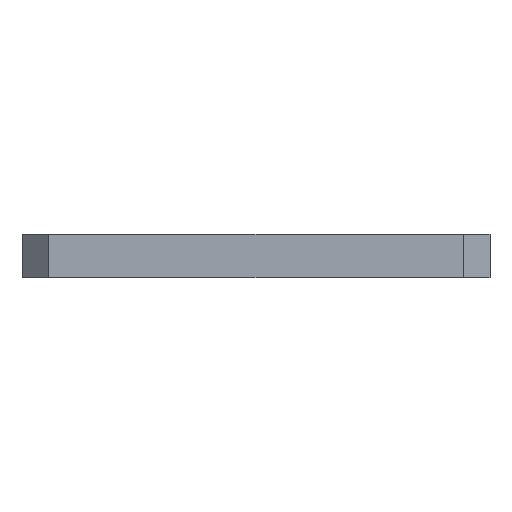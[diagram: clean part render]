
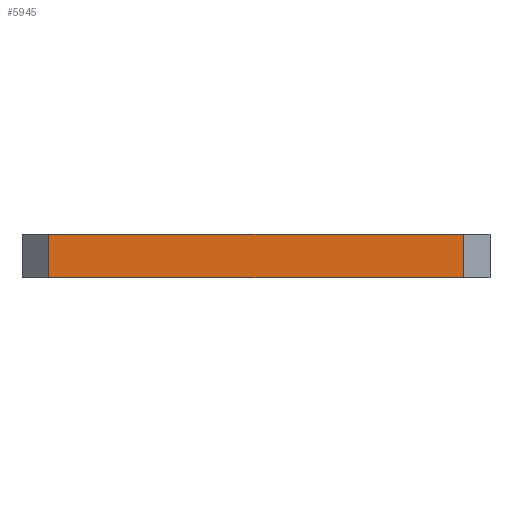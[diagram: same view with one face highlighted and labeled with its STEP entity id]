
A CAD part, front view. The second image highlights one B-rep face of the part: STEP entity #5945.
In plain terms, the highlighted planar face has unit normal (0, -1, 0).
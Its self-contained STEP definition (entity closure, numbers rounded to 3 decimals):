
#38=DIRECTION('',(1.,0.,0.));
#39=VECTOR('',#38,154.);
#40=CARTESIAN_POINT('',(-77.,-85.,-8.));
#41=LINE('',#40,#39);
#879=DIRECTION('',(0.,0.,1.));
#880=VECTOR('',#879,16.);
#881=CARTESIAN_POINT('',(77.,-85.,-8.));
#882=LINE('',#881,#880);
#886=DIRECTION('',(0.,0.,1.));
#887=VECTOR('',#886,16.);
#888=CARTESIAN_POINT('',(-77.,-85.,-8.));
#889=LINE('',#888,#887);
#942=DIRECTION('',(1.,0.,0.));
#943=VECTOR('',#942,154.);
#944=CARTESIAN_POINT('',(-77.,-85.,8.));
#945=LINE('',#944,#943);
#4731=CARTESIAN_POINT('',(-77.,-85.,-8.));
#4732=CARTESIAN_POINT('',(77.,-85.,-8.));
#4733=VERTEX_POINT('',#4731);
#4734=VERTEX_POINT('',#4732);
#4747=CARTESIAN_POINT('',(-77.,-85.,8.));
#4748=CARTESIAN_POINT('',(77.,-85.,8.));
#4749=VERTEX_POINT('',#4747);
#4750=VERTEX_POINT('',#4748);
#5932=CARTESIAN_POINT('',(-77.,-85.,-8.));
#5933=DIRECTION('',(0.,-1.,0.));
#5934=DIRECTION('',(1.,0.,0.));
#5935=AXIS2_PLACEMENT_3D('',#5932,#5933,#5934);
#5936=PLANE('',#5935);
#5937=ORIENTED_EDGE('',*,*,#5562,.F.);
#5939=ORIENTED_EDGE('',*,*,#5938,.T.);
#5941=ORIENTED_EDGE('',*,*,#5940,.T.);
#5942=ORIENTED_EDGE('',*,*,#5924,.F.);
#5943=EDGE_LOOP('',(#5937,#5939,#5941,#5942));
#5944=FACE_OUTER_BOUND('',#5943,.F.);
#5945=ADVANCED_FACE('',(#5944),#5936,.T.);
#5562=EDGE_CURVE('',#4733,#4734,#41,.T.);
#5924=EDGE_CURVE('',#4734,#4750,#882,.T.);
#5938=EDGE_CURVE('',#4733,#4749,#889,.T.);
#5940=EDGE_CURVE('',#4749,#4750,#945,.T.);
